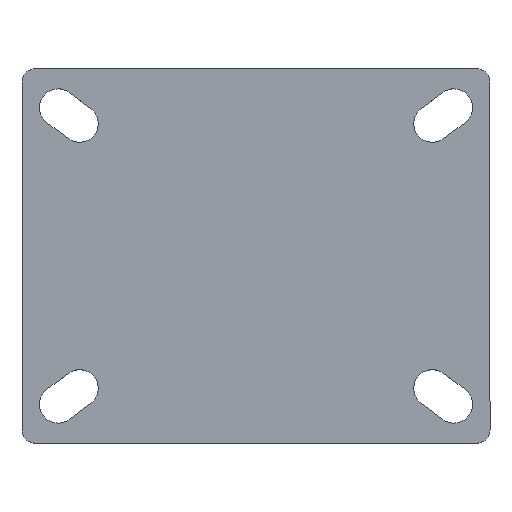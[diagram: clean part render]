
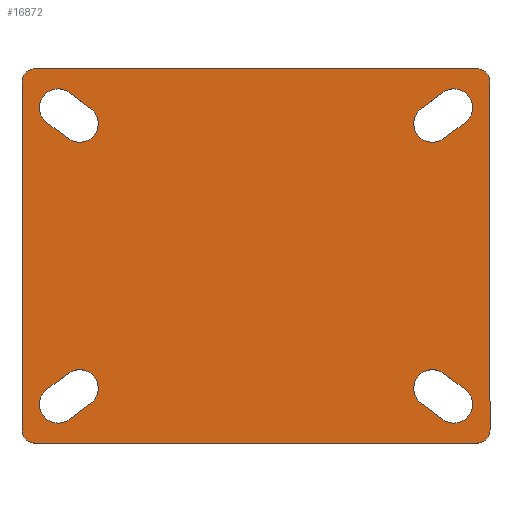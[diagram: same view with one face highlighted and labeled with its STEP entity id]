
A CAD part, top view. The second image highlights one B-rep face of the part: STEP entity #16872.
In plain terms, the highlighted planar face has unit normal (0, 0, 1).
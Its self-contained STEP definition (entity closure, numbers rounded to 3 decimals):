
#1226=FACE_BOUND('',#3542,.T.);
#1227=FACE_BOUND('',#3543,.T.);
#1228=FACE_BOUND('',#3544,.T.);
#1229=FACE_BOUND('',#3545,.T.);
#1663=PLANE('',#17701);
#2547=FACE_OUTER_BOUND('',#3541,.T.);
#3541=EDGE_LOOP('',(#15641,#15642,#15643,#15644,#15645,#15646,#15647,#15648));
#3542=EDGE_LOOP('',(#15649,#15650,#15651,#15652));
#3543=EDGE_LOOP('',(#15653,#15654,#15655,#15656));
#3544=EDGE_LOOP('',(#15657,#15658,#15659,#15660));
#3545=EDGE_LOOP('',(#15661,#15662,#15663,#15664));
#3823=CIRCLE('',#17667,7.);
#3824=CIRCLE('',#17670,7.);
#3825=CIRCLE('',#17673,7.);
#3826=CIRCLE('',#17676,7.);
#3827=CIRCLE('',#17679,7.);
#3828=CIRCLE('',#17682,7.);
#3829=CIRCLE('',#17685,7.);
#3830=CIRCLE('',#17688,7.);
#3831=CIRCLE('',#17690,5.);
#3832=CIRCLE('',#17693,5.);
#3833=CIRCLE('',#17696,5.);
#3834=CIRCLE('',#17699,5.);
#5294=LINE('',#28842,#6808);
#5297=LINE('',#28850,#6811);
#5300=LINE('',#28858,#6814);
#5303=LINE('',#28866,#6817);
#5306=LINE('',#28874,#6820);
#5309=LINE('',#28882,#6823);
#5312=LINE('',#28890,#6826);
#5315=LINE('',#28898,#6829);
#5319=LINE('',#28910,#6833);
#5322=LINE('',#28918,#6836);
#5325=LINE('',#28926,#6839);
#5328=LINE('',#28933,#6842);
#6808=VECTOR('',#20656,10.);
#6811=VECTOR('',#20665,10.);
#6814=VECTOR('',#20674,10.);
#6817=VECTOR('',#20683,10.);
#6820=VECTOR('',#20692,10.);
#6823=VECTOR('',#20701,10.);
#6826=VECTOR('',#20710,10.);
#6829=VECTOR('',#20719,10.);
#6833=VECTOR('',#20733,10.);
#6836=VECTOR('',#20742,10.);
#6839=VECTOR('',#20751,10.);
#6842=VECTOR('',#20760,10.);
#8459=VERTEX_POINT('',#28839);
#8460=VERTEX_POINT('',#28841);
#8461=VERTEX_POINT('',#28845);
#8462=VERTEX_POINT('',#28849);
#8463=VERTEX_POINT('',#28855);
#8464=VERTEX_POINT('',#28857);
#8465=VERTEX_POINT('',#28861);
#8466=VERTEX_POINT('',#28865);
#8467=VERTEX_POINT('',#28871);
#8468=VERTEX_POINT('',#28873);
#8469=VERTEX_POINT('',#28877);
#8470=VERTEX_POINT('',#28881);
#8471=VERTEX_POINT('',#28887);
#8472=VERTEX_POINT('',#28889);
#8473=VERTEX_POINT('',#28893);
#8474=VERTEX_POINT('',#28897);
#8475=VERTEX_POINT('',#28903);
#8476=VERTEX_POINT('',#28905);
#8477=VERTEX_POINT('',#28909);
#8478=VERTEX_POINT('',#28913);
#8479=VERTEX_POINT('',#28917);
#8480=VERTEX_POINT('',#28921);
#8481=VERTEX_POINT('',#28925);
#8482=VERTEX_POINT('',#28929);
#10852=EDGE_CURVE('',#8460,#8459,#5294,.T.);
#10854=EDGE_CURVE('',#8461,#8460,#3823,.T.);
#10856=EDGE_CURVE('',#8462,#8461,#5297,.T.);
#10858=EDGE_CURVE('',#8459,#8462,#3824,.T.);
#10860=EDGE_CURVE('',#8464,#8463,#5300,.T.);
#10862=EDGE_CURVE('',#8465,#8464,#3825,.T.);
#10864=EDGE_CURVE('',#8466,#8465,#5303,.T.);
#10866=EDGE_CURVE('',#8463,#8466,#3826,.T.);
#10868=EDGE_CURVE('',#8468,#8467,#5306,.T.);
#10870=EDGE_CURVE('',#8469,#8468,#3827,.T.);
#10872=EDGE_CURVE('',#8470,#8469,#5309,.T.);
#10874=EDGE_CURVE('',#8467,#8470,#3828,.T.);
#10876=EDGE_CURVE('',#8472,#8471,#5312,.T.);
#10878=EDGE_CURVE('',#8473,#8472,#3829,.T.);
#10880=EDGE_CURVE('',#8474,#8473,#5315,.T.);
#10882=EDGE_CURVE('',#8471,#8474,#3830,.T.);
#10884=EDGE_CURVE('',#8476,#8475,#3831,.T.);
#10886=EDGE_CURVE('',#8477,#8476,#5319,.T.);
#10888=EDGE_CURVE('',#8478,#8477,#3832,.T.);
#10890=EDGE_CURVE('',#8479,#8478,#5322,.T.);
#10892=EDGE_CURVE('',#8480,#8479,#3833,.T.);
#10894=EDGE_CURVE('',#8481,#8480,#5325,.T.);
#10896=EDGE_CURVE('',#8482,#8481,#3834,.T.);
#10898=EDGE_CURVE('',#8475,#8482,#5328,.T.);
#15641=ORIENTED_EDGE('',*,*,#10898,.T.);
#15642=ORIENTED_EDGE('',*,*,#10896,.T.);
#15643=ORIENTED_EDGE('',*,*,#10894,.T.);
#15644=ORIENTED_EDGE('',*,*,#10892,.T.);
#15645=ORIENTED_EDGE('',*,*,#10890,.T.);
#15646=ORIENTED_EDGE('',*,*,#10888,.T.);
#15647=ORIENTED_EDGE('',*,*,#10886,.T.);
#15648=ORIENTED_EDGE('',*,*,#10884,.T.);
#15649=ORIENTED_EDGE('',*,*,#10882,.T.);
#15650=ORIENTED_EDGE('',*,*,#10880,.T.);
#15651=ORIENTED_EDGE('',*,*,#10878,.T.);
#15652=ORIENTED_EDGE('',*,*,#10876,.T.);
#15653=ORIENTED_EDGE('',*,*,#10874,.T.);
#15654=ORIENTED_EDGE('',*,*,#10872,.T.);
#15655=ORIENTED_EDGE('',*,*,#10870,.T.);
#15656=ORIENTED_EDGE('',*,*,#10868,.T.);
#15657=ORIENTED_EDGE('',*,*,#10866,.T.);
#15658=ORIENTED_EDGE('',*,*,#10864,.T.);
#15659=ORIENTED_EDGE('',*,*,#10862,.T.);
#15660=ORIENTED_EDGE('',*,*,#10860,.T.);
#15661=ORIENTED_EDGE('',*,*,#10858,.T.);
#15662=ORIENTED_EDGE('',*,*,#10856,.T.);
#15663=ORIENTED_EDGE('',*,*,#10854,.T.);
#15664=ORIENTED_EDGE('',*,*,#10852,.T.);
#16872=ADVANCED_FACE('',(#2547,#1226,#1227,#1228,#1229),#1663,.T.);
#17667=AXIS2_PLACEMENT_3D('',#28846,#20660,#20661);
#17670=AXIS2_PLACEMENT_3D('',#28853,#20669,#20670);
#17673=AXIS2_PLACEMENT_3D('',#28862,#20678,#20679);
#17676=AXIS2_PLACEMENT_3D('',#28869,#20687,#20688);
#17679=AXIS2_PLACEMENT_3D('',#28878,#20696,#20697);
#17682=AXIS2_PLACEMENT_3D('',#28885,#20705,#20706);
#17685=AXIS2_PLACEMENT_3D('',#28894,#20714,#20715);
#17688=AXIS2_PLACEMENT_3D('',#28901,#20723,#20724);
#17690=AXIS2_PLACEMENT_3D('',#28906,#20728,#20729);
#17693=AXIS2_PLACEMENT_3D('',#28914,#20737,#20738);
#17696=AXIS2_PLACEMENT_3D('',#28922,#20746,#20747);
#17699=AXIS2_PLACEMENT_3D('',#28930,#20755,#20756);
#17701=AXIS2_PLACEMENT_3D('',#28934,#20761,#20762);
#20656=DIRECTION('',(0.8,-0.6,0.));
#20660=DIRECTION('center_axis',(0.,0.,
-1.));
#20661=DIRECTION('ref_axis',(-0.6,-0.8,0.));
#20665=DIRECTION('',(-0.8,0.6,0.));
#20669=DIRECTION('center_axis',(0.,0.,
-1.));
#20670=DIRECTION('ref_axis',(0.6,0.8,0.));
#20674=DIRECTION('',(-0.8,-0.6,0.));
#20678=DIRECTION('center_axis',(0.,0.,
-1.));
#20679=DIRECTION('ref_axis',(-0.6,0.8,0.));
#20683=DIRECTION('',(0.8,0.6,0.));
#20687=DIRECTION('center_axis',(0.,0.,
-1.));
#20688=DIRECTION('ref_axis',(0.6,-0.8,0.));
#20692=DIRECTION('',(-0.8,0.6,0.));
#20696=DIRECTION('center_axis',(0.,0.,
-1.));
#20697=DIRECTION('ref_axis',(0.6,0.8,0.));
#20701=DIRECTION('',(0.8,-0.6,0.));
#20705=DIRECTION('center_axis',(0.,0.,
-1.));
#20706=DIRECTION('ref_axis',(-0.6,-0.8,0.));
#20710=DIRECTION('',(-0.8,-0.6,0.));
#20714=DIRECTION('center_axis',(0.,0.,
-1.));
#20715=DIRECTION('ref_axis',(-0.6,0.8,0.));
#20719=DIRECTION('',(0.8,0.6,0.));
#20723=DIRECTION('center_axis',(0.,0.,
-1.));
#20724=DIRECTION('ref_axis',(0.6,-0.8,0.));
#20728=DIRECTION('center_axis',(0.,0.,
1.));
#20729=DIRECTION('ref_axis',(-1.,0.,0.));
#20733=DIRECTION('',(0.,-1.,0.));
#20737=DIRECTION('center_axis',(0.,0.,
1.));
#20738=DIRECTION('ref_axis',(0.,1.,0.));
#20742=DIRECTION('',(-1.,0.,0.));
#20746=DIRECTION('center_axis',(0.,0.,
1.));
#20747=DIRECTION('ref_axis',(1.,0.,0.));
#20751=DIRECTION('',(0.,1.,0.));
#20755=DIRECTION('center_axis',(0.,0.,
1.));
#20756=DIRECTION('ref_axis',(0.,-1.,0.));
#20760=DIRECTION('',(1.,0.,0.));
#20761=DIRECTION('center_axis',(0.,0.,
1.));
#20762=DIRECTION('ref_axis',(1.,0.,0.));
#28839=CARTESIAN_POINT('',(78.2,-49.9,10.));
#28841=CARTESIAN_POINT('',(70.2,-43.9,10.));
#28842=CARTESIAN_POINT('',(70.2,-43.9,10.));
#28845=CARTESIAN_POINT('',(61.8,-55.1,10.));
#28846=CARTESIAN_POINT('Origin',(66.,-49.5,10.));
#28849=CARTESIAN_POINT('',(69.8,-61.1,10.));
#28850=CARTESIAN_POINT('',(69.8,-61.1,10.));
#28853=CARTESIAN_POINT('Origin',(74.,-55.5,10.));
#28855=CARTESIAN_POINT('',(70.2,43.9,10.));
#28857=CARTESIAN_POINT('',(78.2,49.9,10.));
#28858=CARTESIAN_POINT('',(78.2,49.9,10.));
#28861=CARTESIAN_POINT('',(69.8,61.1,10.));
#28862=CARTESIAN_POINT('Origin',(74.,55.5,10.));
#28865=CARTESIAN_POINT('',(61.8,55.1,10.));
#28866=CARTESIAN_POINT('',(61.8,55.1,10.));
#28869=CARTESIAN_POINT('Origin',(66.,49.5,10.));
#28871=CARTESIAN_POINT('',(-78.2,49.9,10.));
#28873=CARTESIAN_POINT('',(-70.2,43.9,10.));
#28874=CARTESIAN_POINT('',(-70.2,43.9,10.));
#28877=CARTESIAN_POINT('',(-61.8,55.1,10.));
#28878=CARTESIAN_POINT('Origin',(-66.,49.5,10.));
#28881=CARTESIAN_POINT('',(-69.8,61.1,10.));
#28882=CARTESIAN_POINT('',(-69.8,61.1,10.));
#28885=CARTESIAN_POINT('Origin',(-74.,55.5,10.));
#28887=CARTESIAN_POINT('',(-69.8,-61.1,10.));
#28889=CARTESIAN_POINT('',(-61.8,-55.1,10.));
#28890=CARTESIAN_POINT('',(-61.8,-55.1,10.));
#28893=CARTESIAN_POINT('',(-70.2,-43.9,10.));
#28894=CARTESIAN_POINT('Origin',(-66.,-49.5,10.));
#28897=CARTESIAN_POINT('',(-78.2,-49.9,10.));
#28898=CARTESIAN_POINT('',(-78.2,-49.9,10.));
#28901=CARTESIAN_POINT('Origin',(-74.,-55.5,10.));
#28903=CARTESIAN_POINT('',(-82.5,-70.,10.));
#28905=CARTESIAN_POINT('',(-87.5,-65.,10.));
#28906=CARTESIAN_POINT('Origin',(-82.5,-65.,10.));
#28909=CARTESIAN_POINT('',(-87.5,65.,10.));
#28910=CARTESIAN_POINT('',(-87.5,65.,10.));
#28913=CARTESIAN_POINT('',(-82.5,70.,10.));
#28914=CARTESIAN_POINT('Origin',(-82.5,65.,10.));
#28917=CARTESIAN_POINT('',(82.5,70.,10.));
#28918=CARTESIAN_POINT('',(82.5,70.,10.));
#28921=CARTESIAN_POINT('',(87.5,65.,10.));
#28922=CARTESIAN_POINT('Origin',(82.5,65.,10.));
#28925=CARTESIAN_POINT('',(87.5,-65.,10.));
#28926=CARTESIAN_POINT('',(87.5,-65.,10.));
#28929=CARTESIAN_POINT('',(82.5,-70.,10.));
#28930=CARTESIAN_POINT('Origin',(82.5,-65.,10.));
#28933=CARTESIAN_POINT('',(-82.5,-70.,10.));
#28934=CARTESIAN_POINT('Origin',(0.,0.,
10.));
